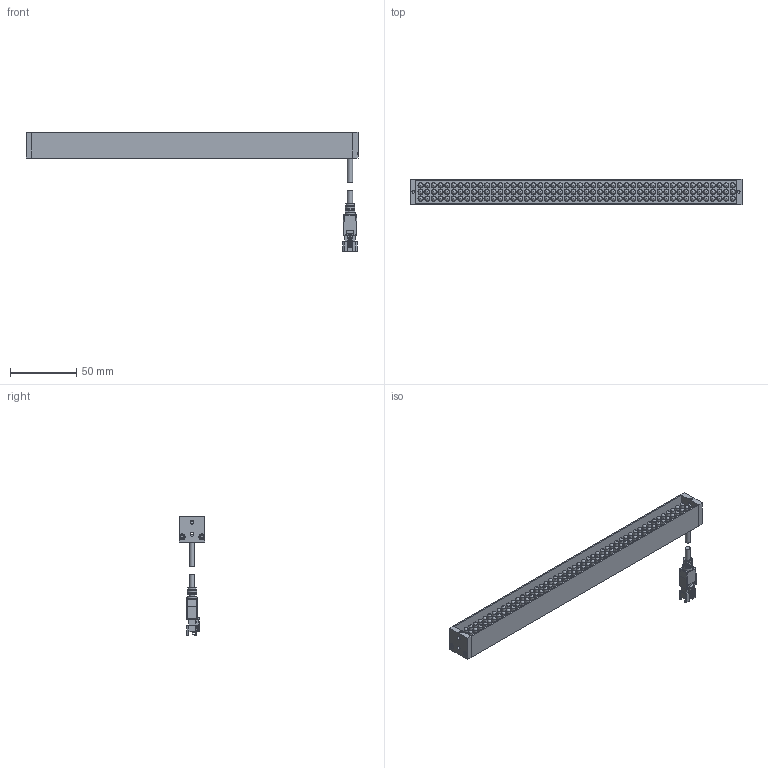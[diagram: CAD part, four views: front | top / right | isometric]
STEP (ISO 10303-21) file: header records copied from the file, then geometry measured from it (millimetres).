
FILE_DESCRIPTION(('STEP AP214'),'1');
FILE_NAME('LED-BL250.stp','2026-04-13T03:24:36',(' '),(' '),'Spatial InterOp 3D',' ',' ');
FILE_SCHEMA(('AUTOMOTIVE_DESIGN { 1 0 10303 214 1 1 1 1 }'));
Length unit declared in the file: metre
Products named in the file (3): LED-BL250; Component1; Component2
Assembly tree (2 placements, depth 2):
  LED-BL250
    Component1
    Component2
Bounding box: 250 x 19 x 89.8 mm (x, y, z)
Volume: 44694.4 mm3; surface area: 50192.1 mm2
Topology: 2 solids, 2 shells, 872 faces, 2133 edges, 1422 vertices
Faces by surface type: plane 363, cylinder 342, sphere 148, cone 11, bspline 4, torus 4
Full cylindrical faces by diameter (mm): 2 x2, 3 x150, 3.9 x2, 4 x144
Entity records: 31063 total; most frequent: CARTESIAN_POINT 4788, DIRECTION 3727, ORIENTED_EDGE 2740, AXIS2_PLACEMENT_3D 1578, EDGE_LOOP 1497, EDGE_CURVE 1370, STYLED_ITEM 1278, PRESENTATION_STYLE_ASSIGNMENT 1278
